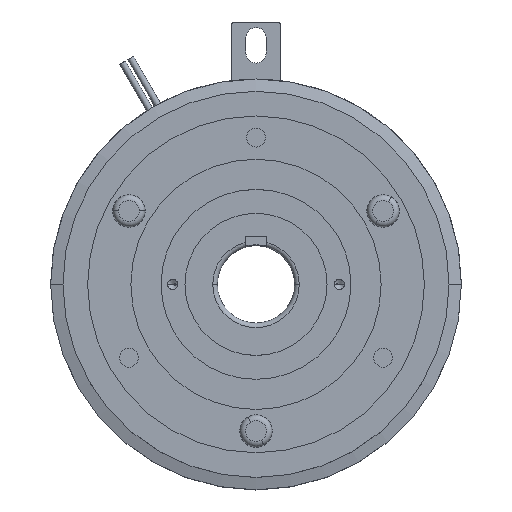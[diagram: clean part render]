
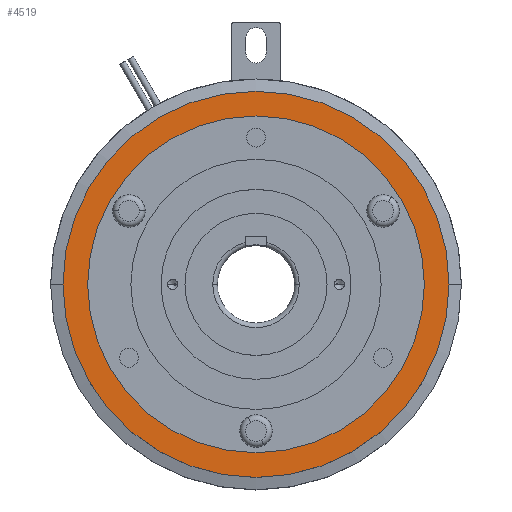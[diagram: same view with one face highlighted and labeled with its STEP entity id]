
A CAD part, top view. The second image highlights one B-rep face of the part: STEP entity #4519.
In plain terms, the highlighted planar face has unit normal (0, 0, 1).
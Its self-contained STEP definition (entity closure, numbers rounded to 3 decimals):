
#382 = VERTEX_POINT ( 'NONE', #2405 ) ;
#891 = EDGE_LOOP ( 'NONE', ( #6034, #6011 ) ) ;
#895 = EDGE_LOOP ( 'NONE', ( #6065, #6043 ) ) ;
#1719 = CIRCLE ( 'NONE', #3786, 54.5 ) ;
#1724 = CIRCLE ( 'NONE', #3787, 62.5 ) ;
#2179 = CIRCLE ( 'NONE', #3883, 62.5 ) ;
#2283 = CIRCLE ( 'NONE', #3901, 54.5 ) ;
#2405 = CARTESIAN_POINT ( 'NONE',  ( 62.5, 0., 40. ) ) ;
#3451 = FACE_OUTER_BOUND ( 'NONE', #891, .T. ) ;
#3455 = FACE_BOUND ( 'NONE', #895, .T. ) ;
#3786 = AXIS2_PLACEMENT_3D ( 'NONE', #5557, #5556, #5555 ) ;
#3787 = AXIS2_PLACEMENT_3D ( 'NONE', #5562, #5561, #5559 ) ;
#3883 = AXIS2_PLACEMENT_3D ( 'NONE', #4695, #4694, #4693 ) ;
#3901 = AXIS2_PLACEMENT_3D ( 'NONE', #4808, #4807, #4806 ) ;
#4129 = AXIS2_PLACEMENT_3D ( 'NONE', #5233, #5230, #5229 ) ;
#4519 = ADVANCED_FACE ( 'NONE', ( #3455, #3451 ), #5243, .T. ) ;
#4693 = DIRECTION ( 'NONE',  ( 1., 0., 0. ) ) ;
#4694 = DIRECTION ( 'NONE',  ( 0., 0., 1. ) ) ;
#4695 = CARTESIAN_POINT ( 'NONE',  ( 0., 0., 40. ) ) ;
#4806 = DIRECTION ( 'NONE',  ( 1., 0., 0. ) ) ;
#4807 = DIRECTION ( 'NONE',  ( 0., 0., 1. ) ) ;
#4808 = CARTESIAN_POINT ( 'NONE',  ( 0., 0., 40. ) ) ;
#5229 = DIRECTION ( 'NONE',  ( 1., 0., 0. ) ) ;
#5230 = DIRECTION ( 'NONE',  ( 0., 0., 1. ) ) ;
#5233 = CARTESIAN_POINT ( 'NONE',  ( 0., 0., 40. ) ) ;
#5243 = PLANE ( 'NONE',  #4129 ) ;
#5397 = CARTESIAN_POINT ( 'NONE',  ( -62.5, 0., 40. ) ) ;
#5416 = CARTESIAN_POINT ( 'NONE',  ( -54.5, 0., 40. ) ) ;
#5432 = CARTESIAN_POINT ( 'NONE',  ( 54.5, 0., 40. ) ) ;
#5555 = DIRECTION ( 'NONE',  ( 1., 0., 0. ) ) ;
#5556 = DIRECTION ( 'NONE',  ( 0., 0., 1. ) ) ;
#5557 = CARTESIAN_POINT ( 'NONE',  ( 0., 0., 40. ) ) ;
#5559 = DIRECTION ( 'NONE',  ( 1., 0., 0. ) ) ;
#5561 = DIRECTION ( 'NONE',  ( 0., 0., 1. ) ) ;
#5562 = CARTESIAN_POINT ( 'NONE',  ( 0., 0., 40. ) ) ;
#5758 = EDGE_CURVE ( 'NONE', #6236, #6267, #2283, .T. ) ;
#5800 = EDGE_CURVE ( 'NONE', #382, #6306, #2179, .T. ) ;
#5965 = EDGE_CURVE ( 'NONE', #6306, #382, #1724, .T. ) ;
#5967 = EDGE_CURVE ( 'NONE', #6267, #6236, #1719, .T. ) ;
#6011 = ORIENTED_EDGE ( 'NONE', *, *, #5800, .T. ) ;
#6034 = ORIENTED_EDGE ( 'NONE', *, *, #5965, .T. ) ;
#6043 = ORIENTED_EDGE ( 'NONE', *, *, #5758, .F. ) ;
#6065 = ORIENTED_EDGE ( 'NONE', *, *, #5967, .F. ) ;
#6236 = VERTEX_POINT ( 'NONE', #5432 ) ;
#6267 = VERTEX_POINT ( 'NONE', #5416 ) ;
#6306 = VERTEX_POINT ( 'NONE', #5397 ) ;
